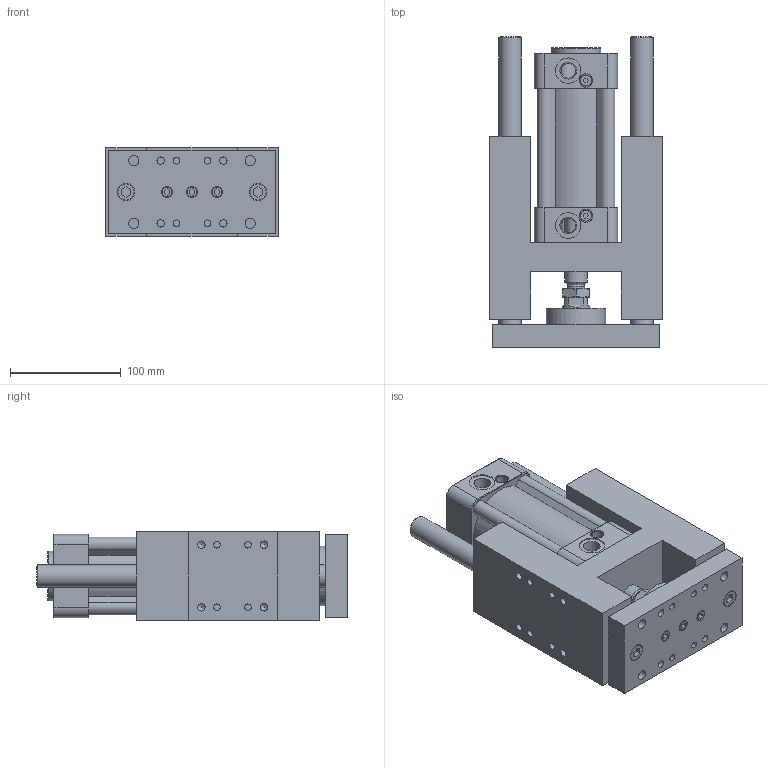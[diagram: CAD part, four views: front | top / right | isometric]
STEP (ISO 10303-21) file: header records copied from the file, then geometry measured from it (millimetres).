
FILE_DESCRIPTION((''),'2;1');
FILE_NAME('I:\3D電子目錄\氣缸\GHB(U)\GHB(U)\GHB(U)63\GHB(U)63x50.stp','2007-10-22T09:00:24',('Administrator'),(''),'Autodesk Inventor 11','Autodesk Inventor 11','');
FILE_SCHEMA(('AUTOMOTIVE_DESIGN { 1 0 10303 214 1 1 1 1 }'));
Length unit declared in the file: millimetre
Products named in the file (1): GHB(U)63
Bounding box: 156 x 280 x 80 mm (x, y, z)
Volume: 1805801.8 mm3; surface area: 310420.3 mm2
Topology: 1 solids, 13 shells, 789 faces, 1754 edges, 1088 vertices
Faces by surface type: plane 303, bspline 237, cylinder 159, cone 88, torus 2
Full cylindrical faces by diameter (mm): 2.5 x2, 6 x4, 6.647 x4, 6.7 x2, 6.75 x4, 7.25 x4, 7.4 x4, 7.5 x2, 8.5 x9, 9 x2, 9.8 x4, 10 x5, 11.5 x1, 11.9 x1, 12 x3, 13 x4, 14 x8, 14.5 x2, 16 x3, 20 x4, 23 x3, 25 x1, 26 x2, 45 x1, 54 x1, 63 x1
Entity records: 22867 total; most frequent: CARTESIAN_POINT 7086, DIRECTION 3132, ORIENTED_EDGE 3076, EDGE_CURVE 1538, AXIS2_PLACEMENT_3D 1207, EDGE_LOOP 1075, VERTEX_POINT 1047, FACE_OUTER_BOUND 789
